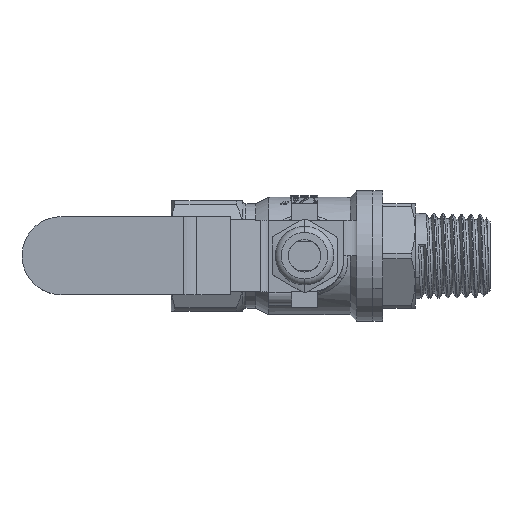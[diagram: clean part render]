
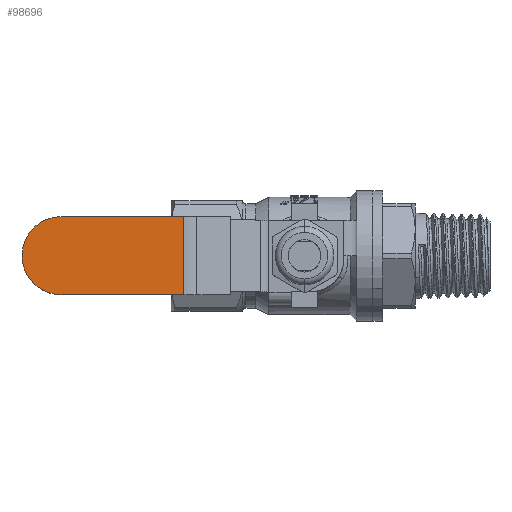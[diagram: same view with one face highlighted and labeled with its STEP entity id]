
A CAD part, top view. The second image highlights one B-rep face of the part: STEP entity #98696.
In plain terms, the highlighted planar face has unit normal (0, 0, 1).
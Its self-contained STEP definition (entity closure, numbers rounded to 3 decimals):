
#98480 = PLANE('',#98481);
#98481 = AXIS2_PLACEMENT_3D('',#98482,#98483,#98484);
#98482 = CARTESIAN_POINT('',(-19.186,-14.781,
    23.153));
#98483 = DIRECTION('',(0.,1.,0.));
#98484 = DIRECTION('',(-1.,0.,0.));
#98541 = PLANE('',#98542);
#98542 = AXIS2_PLACEMENT_3D('',#98543,#98544,#98545);
#98543 = CARTESIAN_POINT('',(-19.186,-2.781,
    23.153));
#98544 = DIRECTION('',(0.,1.,0.));
#98545 = DIRECTION('',(-1.,0.,0.));
#98630 = CYLINDRICAL_SURFACE('',#98631,6.);
#98631 = AXIS2_PLACEMENT_3D('',#98632,#98633,#98634);
#98632 = CARTESIAN_POINT('',(-37.425,-8.781,
    28.653));
#98633 = DIRECTION('',(0.,0.,1.));
#98634 = DIRECTION('',(0.,1.,0.));
#98663 = CYLINDRICAL_SURFACE('',#98664,6.);
#98664 = AXIS2_PLACEMENT_3D('',#98665,#98666,#98667);
#98665 = CARTESIAN_POINT('',(-37.425,-8.781,
    23.153));
#98666 = DIRECTION('',(0.,0.,-1.));
#98667 = DIRECTION('',(0.,-1.,0.));
#98696 = ADVANCED_FACE('',(#98697),#98712,.F.);
#98697 = FACE_BOUND('',#98698,.T.);
#98698 = EDGE_LOOP('',(#98699,#98734,#98762,#98785,#98813));
#98699 = ORIENTED_EDGE('',*,*,#98700,.T.);
#98700 = EDGE_CURVE('',#98701,#98703,#98705,.T.);
#98701 = VERTEX_POINT('',#98702);
#98702 = CARTESIAN_POINT('',(-37.425,-2.781,
    28.653));
#98703 = VERTEX_POINT('',#98704);
#98704 = CARTESIAN_POINT('',(-43.425,-8.781,
    28.653));
#98705 = SURFACE_CURVE('',#98706,(#98711,#98727),.PCURVE_S1.);
#98706 = CIRCLE('',#98707,6.);
#98707 = AXIS2_PLACEMENT_3D('',#98708,#98709,#98710);
#98708 = CARTESIAN_POINT('',(-37.425,-8.781,
    28.653));
#98709 = DIRECTION('',(0.,0.,1.));
#98710 = DIRECTION('',(-1.,0.,0.));
#98711 = PCURVE('',#98712,#98717);
#98712 = PLANE('',#98713);
#98713 = AXIS2_PLACEMENT_3D('',#98714,#98715,#98716);
#98714 = CARTESIAN_POINT('',(-43.425,-2.781,
    28.653));
#98715 = DIRECTION('',(0.,0.,-1.));
#98716 = DIRECTION('',(-1.,0.,0.));
#98717 = DEFINITIONAL_REPRESENTATION('',(#98718),#98726);
#98718 = ( BOUNDED_CURVE() B_SPLINE_CURVE(2,(#98719,#98720,#98721,#98722
    ,#98723,#98724,#98725),.UNSPECIFIED.,.T.,.F.) 
B_SPLINE_CURVE_WITH_KNOTS((1,2,2,2,2,1),(-2.094,0.,
    2.094,4.189,6.283,8.378),
.UNSPECIFIED.) CURVE() GEOMETRIC_REPRESENTATION_ITEM() 
RATIONAL_B_SPLINE_CURVE((1.,0.5,1.,0.5,1.,0.5,1.)) REPRESENTATION_ITEM(
  '') );
#98719 = CARTESIAN_POINT('',(0.,-6.));
#98720 = CARTESIAN_POINT('',(0.,-16.392));
#98721 = CARTESIAN_POINT('',(-9.,-11.196));
#98722 = CARTESIAN_POINT('',(-18.,-6.));
#98723 = CARTESIAN_POINT('',(-9.,-0.804));
#98724 = CARTESIAN_POINT('',(0.,4.392));
#98725 = CARTESIAN_POINT('',(0.,-6.));
#98726 = ( GEOMETRIC_REPRESENTATION_CONTEXT(2) 
PARAMETRIC_REPRESENTATION_CONTEXT() REPRESENTATION_CONTEXT('2D SPACE',''
  ) );
#98727 = PCURVE('',#98663,#98728);
#98728 = DEFINITIONAL_REPRESENTATION('',(#98729),#98733);
#98729 = LINE('',#98730,#98731);
#98730 = CARTESIAN_POINT('',(7.854,-5.5));
#98731 = VECTOR('',#98732,1.);
#98732 = DIRECTION('',(-1.,0.));
#98733 = ( GEOMETRIC_REPRESENTATION_CONTEXT(2) 
PARAMETRIC_REPRESENTATION_CONTEXT() REPRESENTATION_CONTEXT('2D SPACE',''
  ) );
#98734 = ORIENTED_EDGE('',*,*,#98735,.T.);
#98735 = EDGE_CURVE('',#98703,#98736,#98738,.T.);
#98736 = VERTEX_POINT('',#98737);
#98737 = CARTESIAN_POINT('',(-37.425,-14.781,
    28.653));
#98738 = SURFACE_CURVE('',#98739,(#98744,#98755),.PCURVE_S1.);
#98739 = CIRCLE('',#98740,6.);
#98740 = AXIS2_PLACEMENT_3D('',#98741,#98742,#98743);
#98741 = CARTESIAN_POINT('',(-37.425,-8.781,
    28.653));
#98742 = DIRECTION('',(0.,0.,1.));
#98743 = DIRECTION('',(-1.,0.,0.));
#98744 = PCURVE('',#98712,#98745);
#98745 = DEFINITIONAL_REPRESENTATION('',(#98746),#98754);
#98746 = ( BOUNDED_CURVE() B_SPLINE_CURVE(2,(#98747,#98748,#98749,#98750
    ,#98751,#98752,#98753),.UNSPECIFIED.,.T.,.F.) 
B_SPLINE_CURVE_WITH_KNOTS((1,2,2,2,2,1),(-2.094,0.,
    2.094,4.189,6.283,8.378),
.UNSPECIFIED.) CURVE() GEOMETRIC_REPRESENTATION_ITEM() 
RATIONAL_B_SPLINE_CURVE((1.,0.5,1.,0.5,1.,0.5,1.)) REPRESENTATION_ITEM(
  '') );
#98747 = CARTESIAN_POINT('',(0.,-6.));
#98748 = CARTESIAN_POINT('',(0.,-16.392));
#98749 = CARTESIAN_POINT('',(-9.,-11.196));
#98750 = CARTESIAN_POINT('',(-18.,-6.));
#98751 = CARTESIAN_POINT('',(-9.,-0.804));
#98752 = CARTESIAN_POINT('',(0.,4.392));
#98753 = CARTESIAN_POINT('',(0.,-6.));
#98754 = ( GEOMETRIC_REPRESENTATION_CONTEXT(2) 
PARAMETRIC_REPRESENTATION_CONTEXT() REPRESENTATION_CONTEXT('2D SPACE',''
  ) );
#98755 = PCURVE('',#98630,#98756);
#98756 = DEFINITIONAL_REPRESENTATION('',(#98757),#98761);
#98757 = LINE('',#98758,#98759);
#98758 = CARTESIAN_POINT('',(1.571,0.));
#98759 = VECTOR('',#98760,1.);
#98760 = DIRECTION('',(1.,0.));
#98761 = ( GEOMETRIC_REPRESENTATION_CONTEXT(2) 
PARAMETRIC_REPRESENTATION_CONTEXT() REPRESENTATION_CONTEXT('2D SPACE',''
  ) );
#98762 = ORIENTED_EDGE('',*,*,#98763,.T.);
#98763 = EDGE_CURVE('',#98736,#98764,#98766,.T.);
#98764 = VERTEX_POINT('',#98765);
#98765 = CARTESIAN_POINT('',(-18.556,-14.781,
    28.653));
#98766 = SURFACE_CURVE('',#98767,(#98771,#98778),.PCURVE_S1.);
#98767 = LINE('',#98768,#98769);
#98768 = CARTESIAN_POINT('',(-43.425,-14.781,
    28.653));
#98769 = VECTOR('',#98770,1.);
#98770 = DIRECTION('',(1.,0.,0.));
#98771 = PCURVE('',#98712,#98772);
#98772 = DEFINITIONAL_REPRESENTATION('',(#98773),#98777);
#98773 = LINE('',#98774,#98775);
#98774 = CARTESIAN_POINT('',(0.,-12.));
#98775 = VECTOR('',#98776,1.);
#98776 = DIRECTION('',(-1.,0.));
#98777 = ( GEOMETRIC_REPRESENTATION_CONTEXT(2) 
PARAMETRIC_REPRESENTATION_CONTEXT() REPRESENTATION_CONTEXT('2D SPACE',''
  ) );
#98778 = PCURVE('',#98480,#98779);
#98779 = DEFINITIONAL_REPRESENTATION('',(#98780),#98784);
#98780 = LINE('',#98781,#98782);
#98781 = CARTESIAN_POINT('',(24.239,5.5));
#98782 = VECTOR('',#98783,1.);
#98783 = DIRECTION('',(-1.,0.));
#98784 = ( GEOMETRIC_REPRESENTATION_CONTEXT(2) 
PARAMETRIC_REPRESENTATION_CONTEXT() REPRESENTATION_CONTEXT('2D SPACE',''
  ) );
#98785 = ORIENTED_EDGE('',*,*,#98786,.F.);
#98786 = EDGE_CURVE('',#98787,#98764,#98789,.T.);
#98787 = VERTEX_POINT('',#98788);
#98788 = CARTESIAN_POINT('',(-18.556,-2.781,
    28.653));
#98789 = SURFACE_CURVE('',#98790,(#98794,#98801),.PCURVE_S1.);
#98790 = LINE('',#98791,#98792);
#98791 = CARTESIAN_POINT('',(-18.556,-2.781,
    28.653));
#98792 = VECTOR('',#98793,1.);
#98793 = DIRECTION('',(0.,-1.,0.));
#98794 = PCURVE('',#98712,#98795);
#98795 = DEFINITIONAL_REPRESENTATION('',(#98796),#98800);
#98796 = LINE('',#98797,#98798);
#98797 = CARTESIAN_POINT('',(-24.869,0.));
#98798 = VECTOR('',#98799,1.);
#98799 = DIRECTION('',(0.,-1.));
#98800 = ( GEOMETRIC_REPRESENTATION_CONTEXT(2) 
PARAMETRIC_REPRESENTATION_CONTEXT() REPRESENTATION_CONTEXT('2D SPACE',''
  ) );
#98801 = PCURVE('',#98802,#98807);
#98802 = CYLINDRICAL_SURFACE('',#98803,3.5);
#98803 = AXIS2_PLACEMENT_3D('',#98804,#98805,#98806);
#98804 = CARTESIAN_POINT('',(-18.556,-2.781,
    25.153));
#98805 = DIRECTION('',(0.,-1.,0.));
#98806 = DIRECTION('',(1.,0.,0.));
#98807 = DEFINITIONAL_REPRESENTATION('',(#98808),#98812);
#98808 = LINE('',#98809,#98810);
#98809 = CARTESIAN_POINT('',(1.571,0.));
#98810 = VECTOR('',#98811,1.);
#98811 = DIRECTION('',(0.,1.));
#98812 = ( GEOMETRIC_REPRESENTATION_CONTEXT(2) 
PARAMETRIC_REPRESENTATION_CONTEXT() REPRESENTATION_CONTEXT('2D SPACE',''
  ) );
#98813 = ORIENTED_EDGE('',*,*,#98814,.F.);
#98814 = EDGE_CURVE('',#98701,#98787,#98815,.T.);
#98815 = SURFACE_CURVE('',#98816,(#98820,#98827),.PCURVE_S1.);
#98816 = LINE('',#98817,#98818);
#98817 = CARTESIAN_POINT('',(-43.425,-2.781,
    28.653));
#98818 = VECTOR('',#98819,1.);
#98819 = DIRECTION('',(1.,0.,0.));
#98820 = PCURVE('',#98712,#98821);
#98821 = DEFINITIONAL_REPRESENTATION('',(#98822),#98826);
#98822 = LINE('',#98823,#98824);
#98823 = CARTESIAN_POINT('',(0.,0.));
#98824 = VECTOR('',#98825,1.);
#98825 = DIRECTION('',(-1.,0.));
#98826 = ( GEOMETRIC_REPRESENTATION_CONTEXT(2) 
PARAMETRIC_REPRESENTATION_CONTEXT() REPRESENTATION_CONTEXT('2D SPACE',''
  ) );
#98827 = PCURVE('',#98541,#98828);
#98828 = DEFINITIONAL_REPRESENTATION('',(#98829),#98833);
#98829 = LINE('',#98830,#98831);
#98830 = CARTESIAN_POINT('',(24.239,5.5));
#98831 = VECTOR('',#98832,1.);
#98832 = DIRECTION('',(-1.,0.));
#98833 = ( GEOMETRIC_REPRESENTATION_CONTEXT(2) 
PARAMETRIC_REPRESENTATION_CONTEXT() REPRESENTATION_CONTEXT('2D SPACE',''
  ) );
